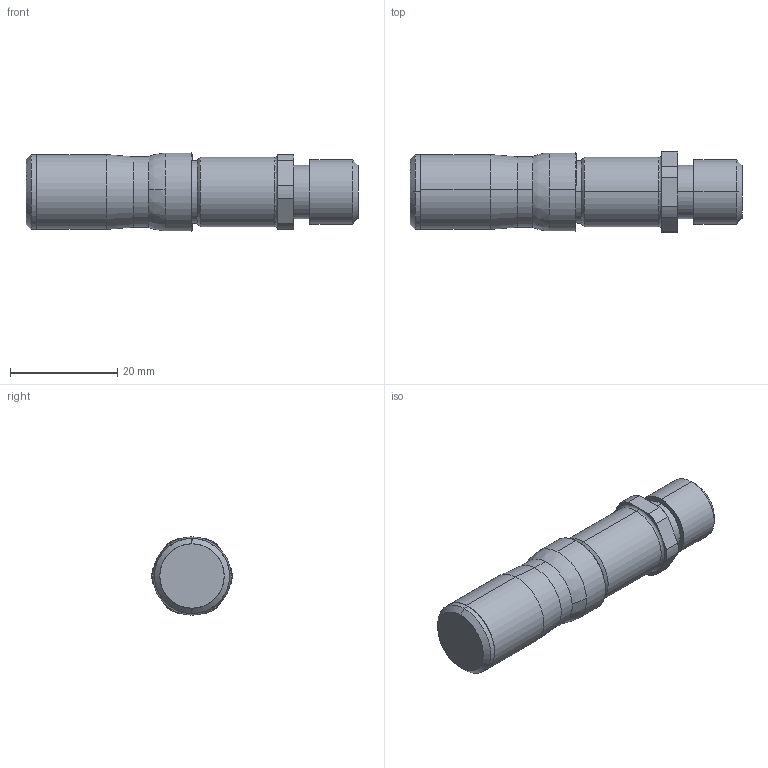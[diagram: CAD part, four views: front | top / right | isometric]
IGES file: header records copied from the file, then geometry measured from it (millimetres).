
Start section: SolidWorks IGES file using analytic representation for surfaces
Global section: file name: Z:\7-3D図面\02.3Dデータ(提出用)\電子カタログ\Ｓ／Ａ\FES\FES-1215.IGS; native system: SolidWorks 2015; preprocessor: SolidWorks 2015; author: flgijutsu02; date: 150615.134214; units: millimetre
Bounding box: 62 x 15 x 14.59 mm (x, y, z)
Surface area: 3347.6 mm2 (no closed solid volume)
Topology: 0 solids, 0 shells, 57 faces, 756 edges, 756 vertices
Faces by surface type: revolution 34, bspline 23
